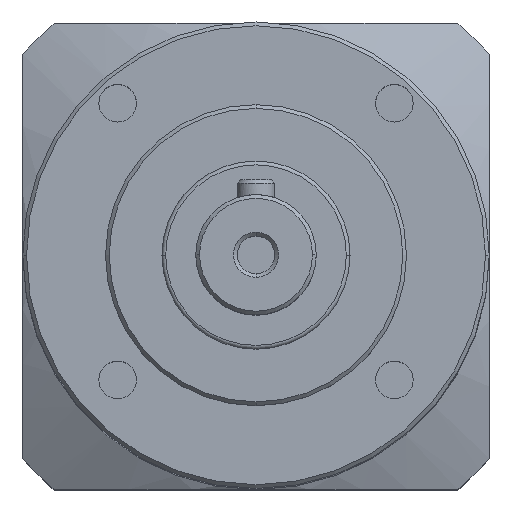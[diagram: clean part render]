
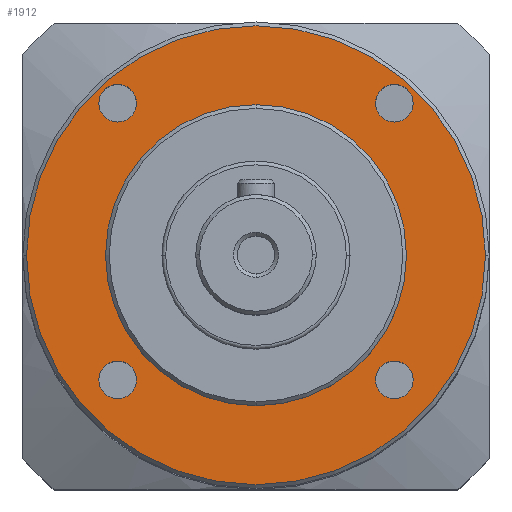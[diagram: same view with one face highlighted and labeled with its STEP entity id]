
A CAD part, top view. The second image highlights one B-rep face of the part: STEP entity #1912.
In plain terms, the highlighted planar face has unit normal (0, 0, 1).
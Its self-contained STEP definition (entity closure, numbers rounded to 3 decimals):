
#1553=CARTESIAN_POINT('',(0.,0.,0.));
#1554=DIRECTION('',(0.,0.,1.));
#1555=DIRECTION('',(0.,1.,0.));
#1556=AXIS2_PLACEMENT_3D('',#1553,#1554,#1555);
#1558=CARTESIAN_POINT('',(0.,0.,0.));
#1559=DIRECTION('',(0.,0.,1.));
#1560=DIRECTION('',(0.,-1.,0.));
#1561=AXIS2_PLACEMENT_3D('',#1558,#1559,#1560);
#1563=CARTESIAN_POINT('',(0.,0.,0.));
#1564=DIRECTION('',(0.,0.,1.));
#1565=DIRECTION('',(-1.,0.,0.));
#1566=AXIS2_PLACEMENT_3D('',#1563,#1564,#1565);
#1568=CARTESIAN_POINT('',(0.,0.,0.));
#1569=DIRECTION('',(0.,0.,1.));
#1570=DIRECTION('',(1.,0.,0.));
#1571=AXIS2_PLACEMENT_3D('',#1568,#1569,#1570);
#1573=CARTESIAN_POINT('',(18.385,20.203,0.));
#1574=DIRECTION('',(0.,0.,1.));
#1575=DIRECTION('',(1.,0.,0.));
#1576=AXIS2_PLACEMENT_3D('',#1573,#1574,#1575);
#1578=CARTESIAN_POINT('',(18.385,20.203,0.));
#1579=DIRECTION('',(0.,0.,1.));
#1580=DIRECTION('',(-1.,0.,0.));
#1581=AXIS2_PLACEMENT_3D('',#1578,#1579,#1580);
#1583=CARTESIAN_POINT('',(-18.385,20.203,0.));
#1584=DIRECTION('',(0.,0.,1.));
#1585=DIRECTION('',(1.,0.,0.));
#1586=AXIS2_PLACEMENT_3D('',#1583,#1584,#1585);
#1588=CARTESIAN_POINT('',(-18.385,20.203,0.));
#1589=DIRECTION('',(0.,0.,1.));
#1590=DIRECTION('',(-1.,0.,0.));
#1591=AXIS2_PLACEMENT_3D('',#1588,#1589,#1590);
#1593=CARTESIAN_POINT('',(-18.385,-16.567,0.));
#1594=DIRECTION('',(0.,0.,1.));
#1595=DIRECTION('',(1.,0.,0.));
#1596=AXIS2_PLACEMENT_3D('',#1593,#1594,#1595);
#1598=CARTESIAN_POINT('',(-18.385,-16.567,0.));
#1599=DIRECTION('',(0.,0.,1.));
#1600=DIRECTION('',(-1.,0.,0.));
#1601=AXIS2_PLACEMENT_3D('',#1598,#1599,#1600);
#1603=CARTESIAN_POINT('',(18.385,-16.567,0.));
#1604=DIRECTION('',(0.,0.,1.));
#1605=DIRECTION('',(1.,0.,0.));
#1606=AXIS2_PLACEMENT_3D('',#1603,#1604,#1605);
#1608=CARTESIAN_POINT('',(18.385,-16.567,0.));
#1609=DIRECTION('',(0.,0.,1.));
#1610=DIRECTION('',(-1.,0.,0.));
#1611=AXIS2_PLACEMENT_3D('',#1608,#1609,#1610);
#1803=CARTESIAN_POINT('',(0.,20.,0.));
#1804=CARTESIAN_POINT('',(0.,-20.,0.));
#1805=VERTEX_POINT('',#1803);
#1806=VERTEX_POINT('',#1804);
#1839=CARTESIAN_POINT('',(20.885,20.203,0.));
#1840=CARTESIAN_POINT('',(15.885,20.203,0.));
#1841=VERTEX_POINT('',#1839);
#1842=VERTEX_POINT('',#1840);
#1843=CARTESIAN_POINT('',(-15.885,20.203,0.));
#1844=CARTESIAN_POINT('',(-20.885,20.203,0.));
#1845=VERTEX_POINT('',#1843);
#1846=VERTEX_POINT('',#1844);
#1847=CARTESIAN_POINT('',(-15.885,-16.567,0.));
#1848=CARTESIAN_POINT('',(-20.885,-16.567,0.));
#1849=VERTEX_POINT('',#1847);
#1850=VERTEX_POINT('',#1848);
#1851=CARTESIAN_POINT('',(20.885,-16.567,0.));
#1852=CARTESIAN_POINT('',(15.885,-16.567,0.));
#1853=VERTEX_POINT('',#1851);
#1854=VERTEX_POINT('',#1852);
#1855=CARTESIAN_POINT('',(-30.5,0.,0.));
#1856=CARTESIAN_POINT('',(30.5,0.,0.));
#1857=VERTEX_POINT('',#1855);
#1858=VERTEX_POINT('',#1856);
#1871=CARTESIAN_POINT('',(0.,0.,0.));
#1872=DIRECTION('',(0.,0.,1.));
#1873=DIRECTION('',(1.,0.,0.));
#1874=AXIS2_PLACEMENT_3D('',#1871,#1872,#1873);
#1875=PLANE('',#1874);
#1877=ORIENTED_EDGE('',*,*,#1876,.F.);
#1879=ORIENTED_EDGE('',*,*,#1878,.F.);
#1880=EDGE_LOOP('',(#1877,#1879));
#1881=FACE_OUTER_BOUND('',#1880,.F.);
#1883=ORIENTED_EDGE('',*,*,#1882,.T.);
#1885=ORIENTED_EDGE('',*,*,#1884,.T.);
#1886=EDGE_LOOP('',(#1883,#1885));
#1887=FACE_BOUND('',#1886,.F.);
#1889=ORIENTED_EDGE('',*,*,#1888,.T.);
#1891=ORIENTED_EDGE('',*,*,#1890,.T.);
#1892=EDGE_LOOP('',(#1889,#1891));
#1893=FACE_BOUND('',#1892,.F.);
#1895=ORIENTED_EDGE('',*,*,#1894,.T.);
#1897=ORIENTED_EDGE('',*,*,#1896,.T.);
#1898=EDGE_LOOP('',(#1895,#1897));
#1899=FACE_BOUND('',#1898,.F.);
#1901=ORIENTED_EDGE('',*,*,#1900,.T.);
#1903=ORIENTED_EDGE('',*,*,#1902,.T.);
#1904=EDGE_LOOP('',(#1901,#1903));
#1905=FACE_BOUND('',#1904,.F.);
#1907=ORIENTED_EDGE('',*,*,#1906,.T.);
#1909=ORIENTED_EDGE('',*,*,#1908,.T.);
#1910=EDGE_LOOP('',(#1907,#1909));
#1911=FACE_BOUND('',#1910,.F.);
#1557=CIRCLE('',#1556,20.);
#1562=CIRCLE('',#1561,20.);
#1567=CIRCLE('',#1566,30.5);
#1572=CIRCLE('',#1571,30.5);
#1577=CIRCLE('',#1576,2.5);
#1582=CIRCLE('',#1581,2.5);
#1587=CIRCLE('',#1586,2.5);
#1592=CIRCLE('',#1591,2.5);
#1597=CIRCLE('',#1596,2.5);
#1602=CIRCLE('',#1601,2.5);
#1607=CIRCLE('',#1606,2.5);
#1612=CIRCLE('',#1611,2.5);
#1876=EDGE_CURVE('',#1857,#1858,#1567,.T.);
#1878=EDGE_CURVE('',#1858,#1857,#1572,.T.);
#1882=EDGE_CURVE('',#1805,#1806,#1557,.T.);
#1884=EDGE_CURVE('',#1806,#1805,#1562,.T.);
#1888=EDGE_CURVE('',#1841,#1842,#1577,.T.);
#1890=EDGE_CURVE('',#1842,#1841,#1582,.T.);
#1894=EDGE_CURVE('',#1845,#1846,#1587,.T.);
#1896=EDGE_CURVE('',#1846,#1845,#1592,.T.);
#1900=EDGE_CURVE('',#1849,#1850,#1597,.T.);
#1902=EDGE_CURVE('',#1850,#1849,#1602,.T.);
#1906=EDGE_CURVE('',#1853,#1854,#1607,.T.);
#1908=EDGE_CURVE('',#1854,#1853,#1612,.T.);
#1912=ADVANCED_FACE('',(#1881,#1887,#1893,#1899,#1905,#1911),#1875,.T.);
